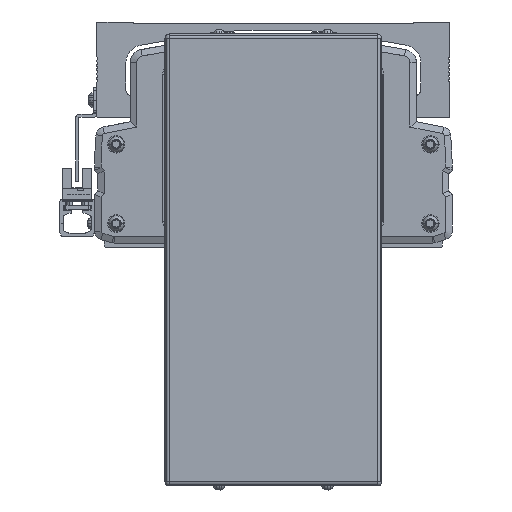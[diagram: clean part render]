
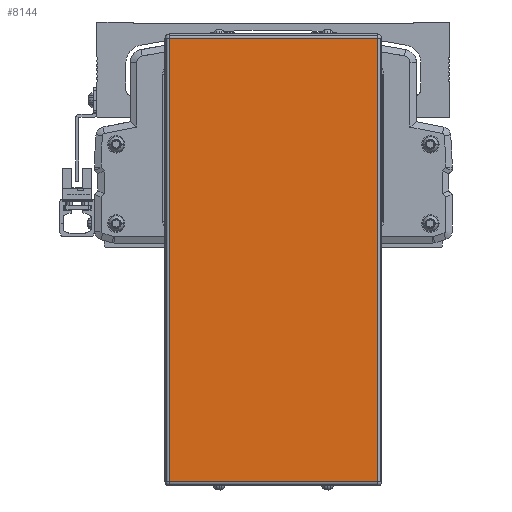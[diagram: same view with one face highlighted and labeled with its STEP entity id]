
A CAD part, front view. The second image highlights one B-rep face of the part: STEP entity #8144.
In plain terms, the highlighted planar face has unit normal (0, -1, 0).
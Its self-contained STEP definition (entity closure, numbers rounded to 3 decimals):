
#8144=ADVANCED_FACE('',(#16529),#16530,.T.);
#16529=FACE_OUTER_BOUND('',#27174,.T.);
#16530=PLANE('',#27175);
#27174=EDGE_LOOP('',(#51129,#51130,#51131,#51132));
#27175=AXIS2_PLACEMENT_3D('',#51133,#51134,#51135);
#51129=ORIENTED_EDGE('',*,*,#62664,.F.);
#51130=ORIENTED_EDGE('',*,*,#56046,.F.);
#51131=ORIENTED_EDGE('',*,*,#61817,.F.);
#51132=ORIENTED_EDGE('',*,*,#55073,.F.);
#51133=CARTESIAN_POINT('',(-600.,-122.778,-57.8));
#51134=DIRECTION('',(0.,-1.0,0.));
#51135=DIRECTION('',(0.,0.,-1.0));
#55073=EDGE_CURVE('',#66336,#66338,#66339,.T.);
#56046=EDGE_CURVE('',#64798,#67966,#67967,.T.);
#61817=EDGE_CURVE('',#66338,#64798,#76207,.T.);
#62664=EDGE_CURVE('',#67966,#66336,#77117,.T.);
#64798=VERTEX_POINT('',#79965);
#66336=VERTEX_POINT('',#82122);
#66338=VERTEX_POINT('',#82124);
#66339=LINE('',#82125,#82126);
#67966=VERTEX_POINT('',#84613);
#67967=LINE('',#84614,#84615);
#76207=LINE('',#97086,#97087);
#77117=LINE('',#98332,#98333);
#79965=CARTESIAN_POINT('',(-648.,-122.778,-160.1));
#82122=CARTESIAN_POINT('',(-552.,-122.778,44.5));
#82124=CARTESIAN_POINT('',(-552.,-122.778,-160.1));
#82125=CARTESIAN_POINT('',(-552.,-122.778,-57.8));
#82126=VECTOR('',#101302,10.0);
#84613=CARTESIAN_POINT('',(-648.,-122.778,44.5));
#84614=CARTESIAN_POINT('',(-648.,-122.778,-57.8));
#84615=VECTOR('',#102497,10.0);
#97086=CARTESIAN_POINT('',(-600.,-122.778,-160.1));
#97087=VECTOR('',#109287,10.0);
#98332=CARTESIAN_POINT('',(-600.,-122.778,44.5));
#98333=VECTOR('',#109880,10.0);
#101302=DIRECTION('',(0.,0.,-1.0));
#102497=DIRECTION('',(0.,0.,1.0));
#109287=DIRECTION('',(-1.0,0.,0.));
#109880=DIRECTION('',(1.0,0.,0.));
